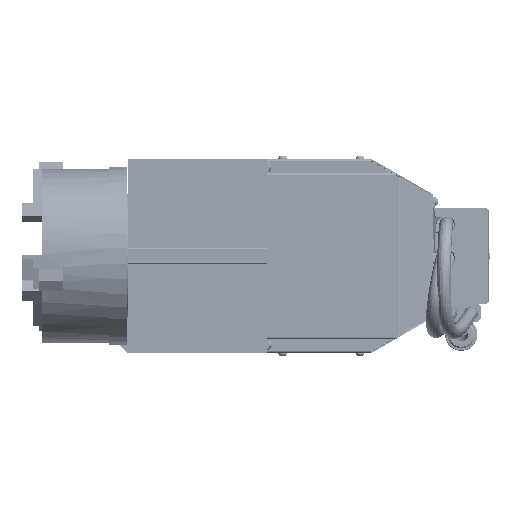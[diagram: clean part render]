
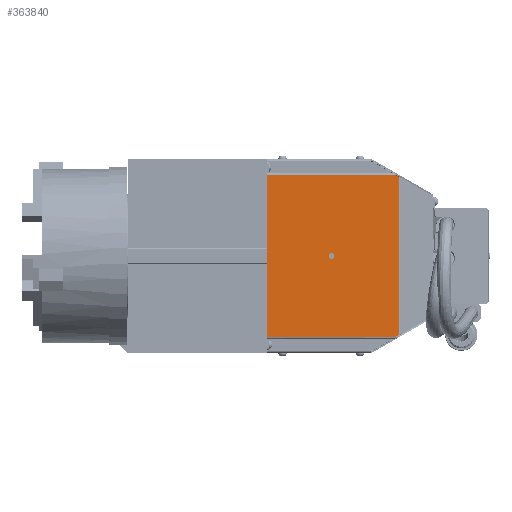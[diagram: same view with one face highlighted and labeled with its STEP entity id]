
A CAD part, front view. The second image highlights one B-rep face of the part: STEP entity #363840.
In plain terms, the highlighted planar face has unit normal (0, -1, 0).
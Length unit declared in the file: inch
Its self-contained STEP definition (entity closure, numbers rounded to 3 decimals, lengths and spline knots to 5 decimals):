
#2367 = ORIENTED_EDGE ( 'NONE', *, *, #104150, .T. ) ;
#3420 = CARTESIAN_POINT ( 'NONE',  ( 0., -4., 3.02702 ) ) ;
#18702 = CARTESIAN_POINT ( 'NONE',  ( -3.57674, -4., 5.94392 ) ) ;
#19580 = VERTEX_POINT ( 'NONE', #115582 ) ;
#22657 = ORIENTED_EDGE ( 'NONE', *, *, #387015, .F. ) ;
#23776 = LINE ( 'NONE', #67343, #180394 ) ;
#24190 = CARTESIAN_POINT ( 'NONE',  ( 0., -4., 2.90202 ) ) ;
#29890 = CARTESIAN_POINT ( 'NONE',  ( -3.55462, -4., 5.94392 ) ) ;
#47766 = DIRECTION ( 'NONE',  ( 0., 0., 1. ) ) ;
#61792 = ORIENTED_EDGE ( 'NONE', *, *, #522242, .T. ) ;
#62287 = CARTESIAN_POINT ( 'NONE',  ( 3.6575, -4., 7.5 ) ) ;
#62831 = DIRECTION ( 'NONE',  ( 0., 0., -1. ) ) ;
#63097 = ORIENTED_EDGE ( 'NONE', *, *, #500426, .T. ) ;
#67343 = CARTESIAN_POINT ( 'NONE',  ( -3.75, -4., 0. ) ) ;
#85978 = PLANE ( 'NONE',  #157106 ) ;
#89433 = LINE ( 'NONE', #299306, #156300 ) ;
#104150 = EDGE_CURVE ( 'NONE', #288734, #165542, #330509, .T. ) ;
#110974 = CARTESIAN_POINT ( 'NONE',  ( 0., -4., 2.77702 ) ) ;
#115582 = CARTESIAN_POINT ( 'NONE',  ( 3.6575, -4., 0. ) ) ;
#126060 = EDGE_CURVE ( 'NONE', #165542, #19580, #23776, .T. ) ;
#128694 = CARTESIAN_POINT ( 'NONE',  ( -3.6575, -4., 7.5 ) ) ;
#137134 = CARTESIAN_POINT ( 'NONE',  ( 3.6575, -4., 5.80404 ) ) ;
#137607 = CIRCLE ( 'NONE', #520968, 0.125 ) ;
#156300 = VECTOR ( 'NONE', #171267, 39.37008 ) ;
#157106 = AXIS2_PLACEMENT_3D ( 'NONE', #208662, #383057, #47766 ) ;
#160786 = VECTOR ( 'NONE', #228564, 39.37008 ) ;
#162006 = EDGE_CURVE ( 'NONE', #530178, #366069, #376825, .T. ) ;
#165542 = VERTEX_POINT ( 'NONE', #509730 ) ;
#166925 = DIRECTION ( 'NONE',  ( 0., 0., -1. ) ) ;
#171267 = DIRECTION ( 'NONE',  ( -0.5, 0., 0.866 ) ) ;
#180394 = VECTOR ( 'NONE', #302637, 39.37008 ) ;
#180800 = VERTEX_POINT ( 'NONE', #18702 ) ;
#198838 = LINE ( 'NONE', #29890, #326699 ) ;
#203789 = ORIENTED_EDGE ( 'NONE', *, *, #162006, .F. ) ;
#208662 = CARTESIAN_POINT ( 'NONE',  ( -3.75, -4., 7.5 ) ) ;
#228564 = DIRECTION ( 'NONE',  ( 0., 0., 1. ) ) ;
#230570 = CARTESIAN_POINT ( 'NONE',  ( -3.6575, -4., 5.80404 ) ) ;
#235466 = EDGE_CURVE ( 'NONE', #517434, #443246, #89433, .T. ) ;
#236011 = ORIENTED_EDGE ( 'NONE', *, *, #235466, .T. ) ;
#242177 = VECTOR ( 'NONE', #519806, 39.37008 ) ;
#266700 = ORIENTED_EDGE ( 'NONE', *, *, #126060, .T. ) ;
#273439 = EDGE_CURVE ( 'NONE', #19580, #517434, #471204, .T. ) ;
#275532 = ORIENTED_EDGE ( 'NONE', *, *, #273439, .T. ) ;
#288734 = VERTEX_POINT ( 'NONE', #230570 ) ;
#299306 = CARTESIAN_POINT ( 'NONE',  ( 3.42879, -4., 6.20018 ) ) ;
#302637 = DIRECTION ( 'NONE',  ( 1., 0., 0. ) ) ;
#316263 = DIRECTION ( 'NONE',  ( -1., 0., 0. ) ) ;
#316284 = DIRECTION ( 'NONE',  ( 0., -1., 0. ) ) ;
#326699 = VECTOR ( 'NONE', #316263, 39.37008 ) ;
#330509 = LINE ( 'NONE', #128694, #517052 ) ;
#334093 = FACE_BOUND ( 'NONE', #464123, .T. ) ;
#351808 = CARTESIAN_POINT ( 'NONE',  ( 0., -4., 2.90202 ) ) ;
#363840 = ADVANCED_FACE ( 'NONE', ( #334093, #380381 ), #85978, .F. ) ;
#366069 = VERTEX_POINT ( 'NONE', #110974 ) ;
#376825 = CIRCLE ( 'NONE', #446455, 0.125 ) ;
#380381 = FACE_OUTER_BOUND ( 'NONE', #403006, .T. ) ;
#383057 = DIRECTION ( 'NONE',  ( 0., 1., 0. ) ) ;
#387015 = EDGE_CURVE ( 'NONE', #366069, #530178, #137607, .T. ) ;
#403006 = EDGE_LOOP ( 'NONE', ( #236011, #63097, #61792, #2367, #266700, #275532 ) ) ;
#427746 = DIRECTION ( 'NONE',  ( 0., -1., 0. ) ) ;
#443246 = VERTEX_POINT ( 'NONE', #478549 ) ;
#446455 = AXIS2_PLACEMENT_3D ( 'NONE', #24190, #427746, #512246 ) ;
#464123 = EDGE_LOOP ( 'NONE', ( #22657, #203789 ) ) ;
#471204 = LINE ( 'NONE', #62287, #160786 ) ;
#478549 = CARTESIAN_POINT ( 'NONE',  ( 3.57674, -4., 5.94392 ) ) ;
#478876 = LINE ( 'NONE', #527815, #242177 ) ;
#500426 = EDGE_CURVE ( 'NONE', #443246, #180800, #198838, .T. ) ;
#509730 = CARTESIAN_POINT ( 'NONE',  ( -3.6575, -4., 0. ) ) ;
#512246 = DIRECTION ( 'NONE',  ( 0., 0., -1. ) ) ;
#517052 = VECTOR ( 'NONE', #166925, 39.37008 ) ;
#517434 = VERTEX_POINT ( 'NONE', #137134 ) ;
#519806 = DIRECTION ( 'NONE',  ( -0.5, 0., -0.866 ) ) ;
#520968 = AXIS2_PLACEMENT_3D ( 'NONE', #351808, #316284, #62831 ) ;
#522242 = EDGE_CURVE ( 'NONE', #180800, #288734, #478876, .T. ) ;
#527815 = CARTESIAN_POINT ( 'NONE',  ( -3.8275, -4., 5.50959 ) ) ;
#530178 = VERTEX_POINT ( 'NONE', #3420 ) ;
